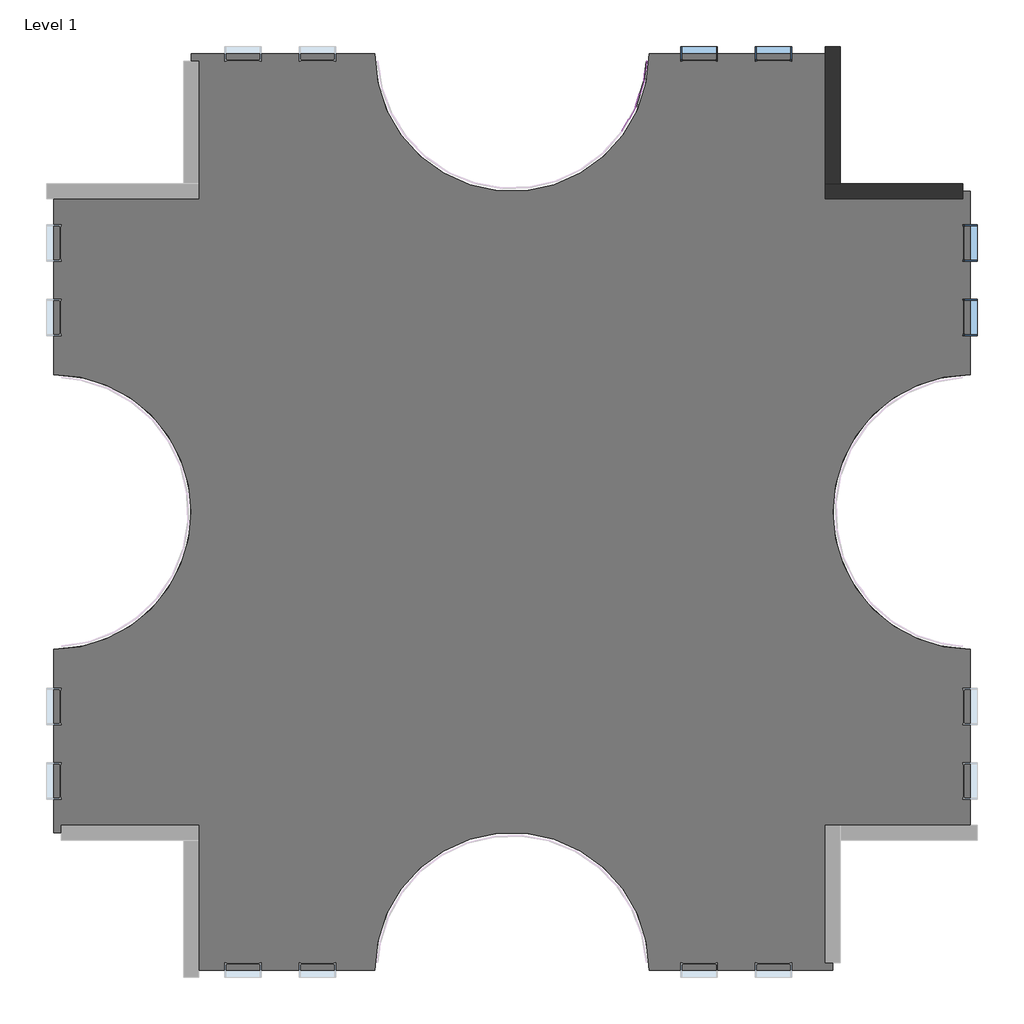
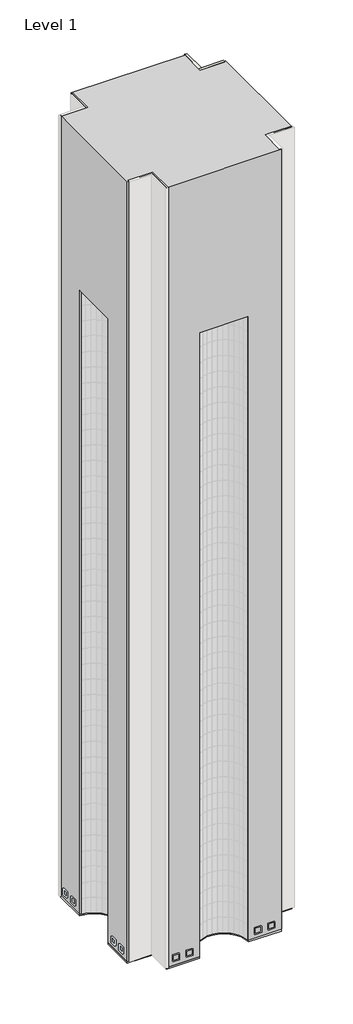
# One storey, part 20 of 20: 87 plates, 4 windows, 2 slabs, 2 walls, 1 proxy.
"""IFC4 building model written with IfcOpenShell, lengths in millimetres."""

from ifc_helpers import new_model, si_unit, point, frame, frame_2d, origin, place, context, project, spatial, polyline, circle_curve, trimmed, segment, composite_curve, outline, extrude, faceted_brep, transform, mapped, element, save
from ifc_brep_helpers import plane_surface, revolved_surface, advanced_brep
from components import system_panel_glazed_d77d1ebf, system_panel_glazed_769dbdec, window_d0035ecf, window_d434eb62

model = new_model("IFC4")

# Units and contexts
model_context = context("Model", 3, world=origin())
ifc_project = project(units=[si_unit("LENGTHUNIT", "METRE", prefix="MILLI")], contexts=[model_context])

# Site, building, storey
site = spatial("IfcSite", under=ifc_project)
building = spatial("IfcBuilding", under=site)
storey = spatial("IfcBuildingStorey", under=building, Name="Level 1", Elevation=0.0)

# Proxy
placement = place(None, origin())
element("IfcBuildingElementProxy", 1, Name="Mass 1 : Mass 1", ObjectType="Mass 1 : Mass 1", at=placement, inside=storey, context=model_context, shape_type="AdvancedBrep", body=[
    advanced_brep(
    [(-7150.3629456, 4479.6634547, 152400.0), (-11722.3629456, 4479.6634547, 152400.0), (-11722.3629456, -16856.3365453, 152400.0), (-7150.3629456, -16856.3365453, 152400.0), (-7150.3629456, -21428.3365453, 152400.0), (14185.6370544, -21428.3365453, 152400.0), (14185.6370544, -16856.3365453, 152400.0), (18757.6370544, -16856.3365453, 152400.0), (18757.6370544, 4479.6634547, 152400.0), (14185.6370544, 4479.6634547, 152400.0), (14185.6370544, 9051.6634547, 152400.0), (-7150.3629456, 9051.6634547, 152400.0), (-7150.3629456, 4479.6634547, 0.0), (-7150.3629456, 9051.6634547, 0.0), (-1054.3629456, 9051.6634547, 0.0), (8089.6370544, 9051.6634547, 0.0), (14185.6370544, 9051.6634547, 0.0), (14185.6370544, 4479.6634547, 0.0), (18757.6370544, 4479.6634547, 0.0), (18757.6370544, -1616.3365453, 0.0), (18757.6370544, -10760.3365453, 0.0), (18757.6370544, -16856.3365453, 0.0), (14185.6370544, -16856.3365453, 0.0), (14185.6370544, -21428.3365453, 0.0), (8089.6370544, -21428.3365453, 0.0), (-1054.3629456, -21428.3365453, 0.0), (-7150.3629456, -21428.3365453, 0.0), (-7150.3629456, -16856.3365453, 0.0), (-11722.3629456, -16856.3365453, 0.0), (-11722.3629456, -10760.3365453, 0.0), (-11722.3629456, -1616.3365453, 0.0), (-11722.3629456, 4479.6634547, 0.0), (-11722.3629456, -1616.3365453, 121920.0), (-11722.3629456, -10760.3365453, 121920.0), (-1054.3629456, -21428.3365453, 121920.0), (8089.6370544, -21428.3365453, 121920.0), (18757.6370544, -10760.3365453, 121920.0), (18757.6370544, -1616.3365453, 121920.0), (8089.6370544, 9051.6634547, 121920.0), (-1054.3629456, 9051.6634547, 121920.0)],
    [
        (0, 1),
        (1, 2),
        (2, 3),
        (3, 4),
        (4, 5),
        (5, 6),
        (6, 7),
        (7, 8),
        (8, 9),
        (9, 10),
        (10, 11),
        (11, 0),
        (12, 13),
        (13, 14),
        (14, 15, circle_curve(frame((3517.6370544, 9051.6634547, 0.0), z_axis=(0.0, 0.0, 1.0), x_axis=(0.0, 1.0, 0.0)), 4572.0)),
        (15, 16),
        (16, 17),
        (17, 18),
        (18, 19),
        (19, 20, circle_curve(frame((18757.6370544, -6188.3365453, 0.0), z_axis=(0.0, 0.0, 1.0), x_axis=(1.0, 0.0, 0.0)), 4572.0)),
        (20, 21),
        (21, 22),
        (22, 23),
        (23, 24),
        (24, 25, circle_curve(frame((3517.6370544, -21428.3365453, 0.0), z_axis=(0.0, 0.0, 1.0), x_axis=(0.0, -1.0, 0.0)), 4572.0)),
        (25, 26),
        (26, 27),
        (27, 28),
        (28, 29),
        (29, 30, circle_curve(frame((-11722.3629456, -6188.3365453, 0.0), z_axis=(0.0, 0.0, 1.0), x_axis=(-1.0, 0.0, 0.0)), 4572.0)),
        (30, 31),
        (31, 12),
        (0, 12),
        (31, 1),
        (30, 32),
        (32, 33),
        (33, 29),
        (28, 2),
        (27, 3),
        (26, 4),
        (25, 34),
        (34, 35),
        (35, 24),
        (23, 5),
        (22, 6),
        (21, 7),
        (20, 36),
        (36, 37),
        (37, 19),
        (18, 8),
        (17, 9),
        (16, 10),
        (15, 38),
        (38, 39),
        (39, 14),
        (13, 11),
        (36, 37, circle_curve(frame((18757.6370544, -6188.3365453, 121920.0), z_axis=(0.0, 0.0, -1.0), x_axis=(1.0, 0.0, 0.0)), 4572.0)),
        (34, 35, circle_curve(frame((3517.6370544, -21428.3365453, 121920.0), z_axis=(0.0, 0.0, -1.0), x_axis=(0.0, -1.0, 0.0)), 4572.0)),
        (38, 39, circle_curve(frame((3517.6370544, 9051.6634547, 121920.0), z_axis=(0.0, 0.0, -1.0), x_axis=(0.0, 1.0, 0.0)), 4572.0)),
        (32, 33, circle_curve(frame((-11722.3629456, -6188.3365453, 121920.0), z_axis=(0.0, 0.0, -1.0), x_axis=(-1.0, 0.0, 0.0)), 4572.0)),
    ],
    [
        plane_surface(frame((-11722.3629456, 4479.6634547, 152400.0), z_axis=(0.0, 0.0, 1.0), x_axis=(-1.0, 0.0, 0.0))),
        plane_surface(frame((-11722.3629456, 4479.6634547, 0.0), z_axis=(0.0, 0.0, -1.0), x_axis=(1.0, 0.0, 0.0))),
        plane_surface(frame((-7150.3629456, 4479.6634547, 152400.0), z_axis=(0.0, 1.0, 0.0), x_axis=(0.0, 0.0, -1.0))),
        plane_surface(frame((-11722.3629456, 4479.6634547, 152400.0), z_axis=(-1.0, 0.0, 0.0), x_axis=(0.0, 0.0, -1.0))),
        plane_surface(frame((-11722.3629456, -16856.3365453, 152400.0), z_axis=(0.0, -1.0, 0.0), x_axis=(0.0, 0.0, -1.0))),
        plane_surface(frame((-7150.3629456, -16856.3365453, 152400.0), z_axis=(-1.0, 0.0, 0.0), x_axis=(0.0, 0.0, -1.0))),
        plane_surface(frame((-7150.3629456, -21428.3365453, 152400.0), z_axis=(0.0, -1.0, 0.0), x_axis=(0.0, 0.0, -1.0))),
        plane_surface(frame((14185.6370544, -21428.3365453, 152400.0), z_axis=(1.0, 0.0, 0.0), x_axis=(0.0, 0.0, -1.0))),
        plane_surface(frame((14185.6370544, -16856.3365453, 152400.0), z_axis=(0.0, -1.0, 0.0), x_axis=(0.0, 0.0, -1.0))),
        plane_surface(frame((18757.6370544, -16856.3365453, 152400.0), z_axis=(1.0, 0.0, 0.0), x_axis=(0.0, 0.0, -1.0))),
        plane_surface(frame((18757.6370544, 4479.6634547, 152400.0), z_axis=(0.0, 1.0, 0.0), x_axis=(0.0, 0.0, -1.0))),
        plane_surface(frame((14185.6370544, 4479.6634547, 152400.0), z_axis=(1.0, 0.0, 0.0), x_axis=(0.0, 0.0, -1.0))),
        plane_surface(frame((14185.6370544, 9051.6634547, 152400.0), z_axis=(0.0, 1.0, 0.0), x_axis=(0.0, 0.0, -1.0))),
        plane_surface(frame((-7150.3629456, 9051.6634547, 152400.0), z_axis=(-1.0, 0.0, 0.0), x_axis=(0.0, 0.0, -1.0))),
        plane_surface(frame((18757.6370544, -10760.3365453, 121920.0), z_axis=(0.0, 0.0, -1.0), x_axis=(0.0, 1.0, 0.0))),
        revolved_surface(polyline([(23329.6370544, -6188.3365453, 121920.0), (23329.6370544, -6188.3365453, 0.0)]), (18757.6370544, -6188.3365453, 0.0), (0.0, 0.0, 1.0)),
        revolved_surface(polyline([(3517.6370544, -26000.3365453, 121920.0), (3517.6370544, -26000.3365453, 0.0)]), (3517.6370544, -21428.3365453, 0.0), (0.0, 0.0, 1.0)),
        revolved_surface(polyline([(3517.6370544, 13623.6634547, 121920.0), (3517.6370544, 13623.6634547, 0.0)]), (3517.6370544, 9051.6634547, 0.0), (0.0, 0.0, 1.0)),
        revolved_surface(polyline([(-16294.3629456, -6188.3365453, 121920.0), (-16294.3629456, -6188.3365453, 0.0)]), (-11722.3629456, -6188.3365453, 0.0), (0.0, 0.0, 1.0)),
    ],
    [
        (0, [[1, 2, 3, 4, 5, 6, 7, 8, 9, 10, 11, 12]]),
        (1, [[13, 14, 15, 16, 17, 18, 19, 20, 21, 22, 23, 24, 25, 26, 27, 28, 29, 30, 31, 32]]),
        (2, [[-1, 33, -32, 34]]),
        (3, [[-2, -34, -31, 35, 36, 37, -29, 38]]),
        (4, [[-3, -38, -28, 39]]),
        (5, [[-4, -39, -27, 40]]),
        (6, [[-5, -40, -26, 41, 42, 43, -24, 44]]),
        (7, [[-6, -44, -23, 45]]),
        (8, [[-7, -45, -22, 46]]),
        (9, [[-8, -46, -21, 47, 48, 49, -19, 50]]),
        (10, [[-9, -50, -18, 51]]),
        (11, [[-10, -51, -17, 52]]),
        (12, [[-11, -52, -16, 53, 54, 55, -14, 56]]),
        (13, [[-12, -56, -13, -33]]),
        (14, [[57, -48]]),
        (14, [[58, -42]]),
        (14, [[59, -54]]),
        (14, [[60, -36]]),
        (15, [[-57, -47, -20, -49]]),
        (16, [[-58, -41, -25, -43]]),
        (17, [[-59, -53, -15, -55]]),
        (18, [[-60, -35, -30, -37]]),
    ],
),
])

# Plates
system_panel_glazed_shape = system_panel_glazed_d77d1ebf(model_context)
element("IfcPlate", 2, ObjectType="System Panel : Glazed", at=placement, inside=storey, context=model_context, shape_type="MappedRepresentation", body=[
    mapped(system_panel_glazed_shape, transform((7737.9054503, 7722.5420694, 0.0), x_axis=(0.30039246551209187, 0.953815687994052, 0.0), y_axis=(-0.953815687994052, 0.30039246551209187, 0.0), z_axis=(0.0, 0.0, 1.0))),
])
element("IfcPlate", 3, ObjectType="System Panel : Glazed", at=placement, inside=storey, context=model_context, shape_type="MappedRepresentation", body=[
    mapped(system_panel_glazed_shape, transform((7737.9054503, 7722.5420694, 3048.0), x_axis=(0.30039246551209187, 0.953815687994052, 0.0), y_axis=(-0.953815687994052, 0.30039246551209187, 0.0), z_axis=(0.0, 0.0, 1.0))),
])
element("IfcPlate", 4, ObjectType="System Panel : Glazed", at=placement, inside=storey, context=model_context, shape_type="MappedRepresentation", body=[
    mapped(system_panel_glazed_shape, transform((7737.9054503, 7722.5420694, 6096.0), x_axis=(0.30039246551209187, 0.953815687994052, 0.0), y_axis=(-0.953815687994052, 0.30039246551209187, 0.0), z_axis=(0.0, 0.0, 1.0))),
])
element("IfcPlate", 5, ObjectType="System Panel : Glazed", at=placement, inside=storey, context=model_context, shape_type="MappedRepresentation", body=[
    mapped(system_panel_glazed_shape, transform((7737.9054503, 7722.5420694, 9144.0), x_axis=(0.30039246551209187, 0.953815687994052, 0.0), y_axis=(-0.953815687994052, 0.30039246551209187, 0.0), z_axis=(0.0, 0.0, 1.0))),
])
element("IfcPlate", 6, ObjectType="System Panel : Glazed", at=placement, inside=storey, context=model_context, shape_type="MappedRepresentation", body=[
    mapped(system_panel_glazed_shape, transform((7737.9054503, 7722.5420694, 12192.0), x_axis=(0.30039246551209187, 0.953815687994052, 0.0), y_axis=(-0.953815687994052, 0.30039246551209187, 0.0), z_axis=(0.0, 0.0, 1.0))),
])
element("IfcPlate", 7, ObjectType="System Panel : Glazed", at=placement, inside=storey, context=model_context, shape_type="MappedRepresentation", body=[
    mapped(system_panel_glazed_shape, transform((7737.9054503, 7722.5420694, 15240.0), x_axis=(0.30039246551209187, 0.953815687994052, 0.0), y_axis=(-0.953815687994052, 0.30039246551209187, 0.0), z_axis=(0.0, 0.0, 1.0))),
])
element("IfcPlate", 8, ObjectType="System Panel : Glazed", at=placement, inside=storey, context=model_context, shape_type="MappedRepresentation", body=[
    mapped(system_panel_glazed_shape, transform((7737.9054503, 7722.5420694, 18288.0), x_axis=(0.3003924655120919, 0.953815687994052, 0.0), y_axis=(-0.953815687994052, 0.3003924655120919, 0.0), z_axis=(0.0, 0.0, 1.0))),
])
element("IfcPlate", 9, ObjectType="System Panel : Glazed", at=placement, inside=storey, context=model_context, shape_type="MappedRepresentation", body=[
    mapped(system_panel_glazed_shape, transform((7737.9054503, 7722.5420694, 21336.0), x_axis=(0.30039246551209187, 0.953815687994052, 0.0), y_axis=(-0.953815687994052, 0.30039246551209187, 0.0), z_axis=(0.0, 0.0, 1.0))),
])
element("IfcPlate", 10, ObjectType="System Panel : Glazed", at=placement, inside=storey, context=model_context, shape_type="MappedRepresentation", body=[
    mapped(system_panel_glazed_shape, transform((7737.9054503, 7722.5420694, 24384.0), x_axis=(0.30039246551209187, 0.953815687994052, 0.0), y_axis=(-0.953815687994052, 0.30039246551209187, 0.0), z_axis=(0.0, 0.0, 1.0))),
])
element("IfcPlate", 11, ObjectType="System Panel : Glazed", at=placement, inside=storey, context=model_context, shape_type="MappedRepresentation", body=[
    mapped(system_panel_glazed_shape, transform((7737.9054503, 7722.5420694, 27432.0), x_axis=(0.30039246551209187, 0.953815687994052, 0.0), y_axis=(-0.953815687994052, 0.30039246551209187, 0.0), z_axis=(0.0, 0.0, 1.0))),
])
element("IfcPlate", 12, ObjectType="System Panel : Glazed", at=placement, inside=storey, context=model_context, shape_type="MappedRepresentation", body=[
    mapped(system_panel_glazed_shape, transform((7737.9054503, 7722.5420694, 30480.0), x_axis=(0.30039246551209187, 0.953815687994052, 0.0), y_axis=(-0.953815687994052, 0.30039246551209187, 0.0), z_axis=(0.0, 0.0, 1.0))),
])
element("IfcPlate", 13, ObjectType="System Panel : Glazed", at=placement, inside=storey, context=model_context, shape_type="MappedRepresentation", body=[
    mapped(system_panel_glazed_shape, transform((7737.9054503, 7722.5420694, 33528.0), x_axis=(0.30039246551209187, 0.953815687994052, 0.0), y_axis=(-0.953815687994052, 0.30039246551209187, 0.0), z_axis=(0.0, 0.0, 1.0))),
])
element("IfcPlate", 14, ObjectType="System Panel : Glazed", at=placement, inside=storey, context=model_context, shape_type="MappedRepresentation", body=[
    mapped(system_panel_glazed_shape, transform((7737.9054503, 7722.5420694, 36576.0), x_axis=(0.30039246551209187, 0.953815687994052, 0.0), y_axis=(-0.953815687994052, 0.30039246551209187, 0.0), z_axis=(0.0, 0.0, 1.0))),
])
element("IfcPlate", 15, ObjectType="System Panel : Glazed", at=placement, inside=storey, context=model_context, shape_type="MappedRepresentation", body=[
    mapped(system_panel_glazed_shape, transform((7737.9054503, 7722.5420694, 39624.0), x_axis=(0.30039246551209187, 0.953815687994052, 0.0), y_axis=(-0.953815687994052, 0.30039246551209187, 0.0), z_axis=(0.0, 0.0, 1.0))),
])
element("IfcPlate", 16, ObjectType="System Panel : Glazed", at=placement, inside=storey, context=model_context, shape_type="MappedRepresentation", body=[
    mapped(system_panel_glazed_shape, transform((7737.9054503, 7722.5420694, 42672.0), x_axis=(0.30039246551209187, 0.953815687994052, 0.0), y_axis=(-0.953815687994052, 0.30039246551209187, 0.0), z_axis=(0.0, 0.0, 1.0))),
])
element("IfcPlate", 17, ObjectType="System Panel : Glazed", at=placement, inside=storey, context=model_context, shape_type="MappedRepresentation", body=[
    mapped(system_panel_glazed_shape, transform((7737.9054503, 7722.5420694, 45720.0), x_axis=(0.30039246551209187, 0.953815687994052, 0.0), y_axis=(-0.953815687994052, 0.30039246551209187, 0.0), z_axis=(0.0, 0.0, 1.0))),
])
element("IfcPlate", 18, ObjectType="System Panel : Glazed", at=placement, inside=storey, context=model_context, shape_type="MappedRepresentation", body=[
    mapped(system_panel_glazed_shape, transform((7737.9054503, 7722.5420694, 48768.0), x_axis=(0.30039246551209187, 0.953815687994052, 0.0), y_axis=(-0.953815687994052, 0.30039246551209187, 0.0), z_axis=(0.0, 0.0, 1.0))),
])
element("IfcPlate", 19, ObjectType="System Panel : Glazed", at=placement, inside=storey, context=model_context, shape_type="MappedRepresentation", body=[
    mapped(system_panel_glazed_shape, transform((7737.9054503, 7722.5420694, 51816.0), x_axis=(0.30039246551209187, 0.953815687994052, 0.0), y_axis=(-0.953815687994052, 0.30039246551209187, 0.0), z_axis=(0.0, 0.0, 1.0))),
])
element("IfcPlate", 20, ObjectType="System Panel : Glazed", at=placement, inside=storey, context=model_context, shape_type="MappedRepresentation", body=[
    mapped(system_panel_glazed_shape, transform((7737.9054503, 7722.5420694, 54864.0), x_axis=(0.30039246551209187, 0.953815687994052, 0.0), y_axis=(-0.953815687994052, 0.30039246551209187, 0.0), z_axis=(0.0, 0.0, 1.0))),
])
element("IfcPlate", 21, ObjectType="System Panel : Glazed", at=placement, inside=storey, context=model_context, shape_type="MappedRepresentation", body=[
    mapped(system_panel_glazed_shape, transform((7737.9054503, 7722.5420694, 57912.0), x_axis=(0.30039246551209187, 0.953815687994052, 0.0), y_axis=(-0.953815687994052, 0.30039246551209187, 0.0), z_axis=(0.0, 0.0, 1.0))),
])
element("IfcPlate", 22, ObjectType="System Panel : Glazed", at=placement, inside=storey, context=model_context, shape_type="MappedRepresentation", body=[
    mapped(system_panel_glazed_shape, transform((7737.9054503, 7722.5420694, 60960.0), x_axis=(0.30039246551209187, 0.953815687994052, 0.0), y_axis=(-0.953815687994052, 0.30039246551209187, 0.0), z_axis=(0.0, 0.0, 1.0))),
])
element("IfcPlate", 23, ObjectType="System Panel : Glazed", at=placement, inside=storey, context=model_context, shape_type="MappedRepresentation", body=[
    mapped(system_panel_glazed_shape, transform((7737.9054503, 7722.5420694, 64008.0), x_axis=(0.30039246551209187, 0.953815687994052, 0.0), y_axis=(-0.953815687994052, 0.30039246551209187, 0.0), z_axis=(0.0, 0.0, 1.0))),
])
element("IfcPlate", 24, ObjectType="System Panel : Glazed", at=placement, inside=storey, context=model_context, shape_type="MappedRepresentation", body=[
    mapped(system_panel_glazed_shape, transform((7737.9054503, 7722.5420694, 67056.0), x_axis=(0.30039246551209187, 0.953815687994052, 0.0), y_axis=(-0.953815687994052, 0.30039246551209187, 0.0), z_axis=(0.0, 0.0, 1.0))),
])
element("IfcPlate", 25, ObjectType="System Panel : Glazed", at=placement, inside=storey, context=model_context, shape_type="MappedRepresentation", body=[
    mapped(system_panel_glazed_shape, transform((7737.9054503, 7722.5420694, 70104.0), x_axis=(0.30039246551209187, 0.953815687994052, 0.0), y_axis=(-0.953815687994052, 0.30039246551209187, 0.0), z_axis=(0.0, 0.0, 1.0))),
])
element("IfcPlate", 26, ObjectType="System Panel : Glazed", at=placement, inside=storey, context=model_context, shape_type="MappedRepresentation", body=[
    mapped(system_panel_glazed_shape, transform((7737.9054503, 7722.5420694, 73152.0), x_axis=(0.30039246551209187, 0.953815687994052, 0.0), y_axis=(-0.953815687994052, 0.30039246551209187, 0.0), z_axis=(0.0, 0.0, 1.0))),
])
element("IfcPlate", 27, ObjectType="System Panel : Glazed", at=placement, inside=storey, context=model_context, shape_type="MappedRepresentation", body=[
    mapped(system_panel_glazed_shape, transform((7737.9054503, 7722.5420694, 76200.0), x_axis=(0.30039246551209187, 0.953815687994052, 0.0), y_axis=(-0.953815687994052, 0.30039246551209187, 0.0), z_axis=(0.0, 0.0, 1.0))),
])
element("IfcPlate", 28, ObjectType="System Panel : Glazed", at=placement, inside=storey, context=model_context, shape_type="MappedRepresentation", body=[
    mapped(system_panel_glazed_shape, transform((7737.9054503, 7722.5420694, 79248.0), x_axis=(0.30039246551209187, 0.953815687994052, 0.0), y_axis=(-0.953815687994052, 0.30039246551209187, 0.0), z_axis=(0.0, 0.0, 1.0))),
])
element("IfcPlate", 29, ObjectType="System Panel : Glazed", at=placement, inside=storey, context=model_context, shape_type="MappedRepresentation", body=[
    mapped(system_panel_glazed_shape, transform((7737.9054503, 7722.5420694, 82296.0), x_axis=(0.30039246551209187, 0.953815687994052, 0.0), y_axis=(-0.953815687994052, 0.30039246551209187, 0.0), z_axis=(0.0, 0.0, 1.0))),
])
element("IfcPlate", 30, ObjectType="System Panel : Glazed", at=placement, inside=storey, context=model_context, shape_type="MappedRepresentation", body=[
    mapped(system_panel_glazed_shape, transform((7737.9054503, 7722.5420694, 85344.0), x_axis=(0.30039246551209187, 0.953815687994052, 0.0), y_axis=(-0.953815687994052, 0.30039246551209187, 0.0), z_axis=(0.0, 0.0, 1.0))),
])
element("IfcPlate", 31, ObjectType="System Panel : Glazed", at=placement, inside=storey, context=model_context, shape_type="MappedRepresentation", body=[
    mapped(system_panel_glazed_shape, transform((7737.9054503, 7722.5420694, 88392.0), x_axis=(0.30039246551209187, 0.953815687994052, 0.0), y_axis=(-0.953815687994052, 0.30039246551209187, 0.0), z_axis=(0.0, 0.0, 1.0))),
])
element("IfcPlate", 32, ObjectType="System Panel : Glazed", at=placement, inside=storey, context=model_context, shape_type="MappedRepresentation", body=[
    mapped(system_panel_glazed_shape, transform((7737.9054503, 7722.5420694, 91440.0), x_axis=(0.30039246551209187, 0.953815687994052, 0.0), y_axis=(-0.953815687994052, 0.30039246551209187, 0.0), z_axis=(0.0, 0.0, 1.0))),
])
element("IfcPlate", 33, ObjectType="System Panel : Glazed", at=placement, inside=storey, context=model_context, shape_type="MappedRepresentation", body=[
    mapped(system_panel_glazed_shape, transform((7737.9054503, 7722.5420694, 94488.0), x_axis=(0.30039246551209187, 0.953815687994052, 0.0), y_axis=(-0.953815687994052, 0.30039246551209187, 0.0), z_axis=(0.0, 0.0, 1.0))),
])
element("IfcPlate", 34, ObjectType="System Panel : Glazed", at=placement, inside=storey, context=model_context, shape_type="MappedRepresentation", body=[
    mapped(system_panel_glazed_shape, transform((7737.9054503, 7722.5420694, 97536.0), x_axis=(0.30039246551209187, 0.953815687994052, 0.0), y_axis=(-0.953815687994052, 0.30039246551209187, 0.0), z_axis=(0.0, 0.0, 1.0))),
])
element("IfcPlate", 35, ObjectType="System Panel : Glazed", at=placement, inside=storey, context=model_context, shape_type="MappedRepresentation", body=[
    mapped(system_panel_glazed_shape, transform((7376.9584203, 6887.6700201, 100584.0), x_axis=(0.4890804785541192, 0.8722386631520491, 0.0), y_axis=(-0.8722386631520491, 0.4890804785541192, 0.0), z_axis=(0.0, 0.0, 1.0))),
])
element("IfcPlate", 36, ObjectType="System Panel : Glazed", at=placement, inside=storey, context=model_context, shape_type="MappedRepresentation", body=[
    mapped(system_panel_glazed_shape, transform((7737.9054503, 7722.5420694, 100584.0), x_axis=(0.30039246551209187, 0.953815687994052, 0.0), y_axis=(-0.953815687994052, 0.30039246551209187, 0.0), z_axis=(0.0, 0.0, 1.0))),
])
element("IfcPlate", 37, ObjectType="System Panel : Glazed", at=placement, inside=storey, context=model_context, shape_type="MappedRepresentation", body=[
    mapped(system_panel_glazed_shape, transform((7376.9584203, 6887.6700201, 103632.0), x_axis=(0.4890804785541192, 0.8722386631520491, 0.0), y_axis=(-0.8722386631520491, 0.4890804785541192, 0.0), z_axis=(0.0, 0.0, 1.0))),
])
element("IfcPlate", 38, ObjectType="System Panel : Glazed", at=placement, inside=storey, context=model_context, shape_type="MappedRepresentation", body=[
    mapped(system_panel_glazed_shape, transform((7737.9054503, 7722.5420694, 103632.0), x_axis=(0.30039246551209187, 0.953815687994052, 0.0), y_axis=(-0.953815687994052, 0.30039246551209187, 0.0), z_axis=(0.0, 0.0, 1.0))),
])
element("IfcPlate", 39, ObjectType="System Panel : Glazed", at=placement, inside=storey, context=model_context, shape_type="MappedRepresentation", body=[
    mapped(system_panel_glazed_shape, transform((7376.9584203, 6887.6700201, 106680.0), x_axis=(0.4890804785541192, 0.8722386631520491, 0.0), y_axis=(-0.8722386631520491, 0.4890804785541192, 0.0), z_axis=(0.0, 0.0, 1.0))),
])
element("IfcPlate", 40, ObjectType="System Panel : Glazed", at=placement, inside=storey, context=model_context, shape_type="MappedRepresentation", body=[
    mapped(system_panel_glazed_shape, transform((7737.9054503, 7722.5420694, 106680.0), x_axis=(0.30039246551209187, 0.953815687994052, 0.0), y_axis=(-0.953815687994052, 0.30039246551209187, 0.0), z_axis=(0.0, 0.0, 1.0))),
])
element("IfcPlate", 41, ObjectType="System Panel : Glazed", at=placement, inside=storey, context=model_context, shape_type="MappedRepresentation", body=[
    mapped(system_panel_glazed_shape, transform((7376.9584203, 6887.6700201, 109728.0), x_axis=(0.4890804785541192, 0.8722386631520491, 0.0), y_axis=(-0.8722386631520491, 0.4890804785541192, 0.0), z_axis=(0.0, 0.0, 1.0))),
])
element("IfcPlate", 42, ObjectType="System Panel : Glazed", at=placement, inside=storey, context=model_context, shape_type="MappedRepresentation", body=[
    mapped(system_panel_glazed_shape, transform((7737.9054503, 7722.5420694, 109728.0), x_axis=(0.30039246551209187, 0.953815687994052, 0.0), y_axis=(-0.953815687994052, 0.30039246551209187, 0.0), z_axis=(0.0, 0.0, 1.0))),
])
element("IfcPlate", 43, ObjectType="System Panel : Glazed", at=placement, inside=storey, context=model_context, shape_type="MappedRepresentation", body=[
    mapped(system_panel_glazed_shape, transform((7376.9584203, 6887.6700201, 112776.0), x_axis=(0.4890804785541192, 0.8722386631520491, 0.0), y_axis=(-0.8722386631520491, 0.4890804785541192, 0.0), z_axis=(0.0, 0.0, 1.0))),
])
element("IfcPlate", 44, ObjectType="System Panel : Glazed", at=placement, inside=storey, context=model_context, shape_type="MappedRepresentation", body=[
    mapped(system_panel_glazed_shape, transform((7737.9054503, 7722.5420694, 112776.0), x_axis=(0.30039246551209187, 0.953815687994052, 0.0), y_axis=(-0.953815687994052, 0.30039246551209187, 0.0), z_axis=(0.0, 0.0, 1.0))),
])
element("IfcPlate", 45, ObjectType="System Panel : Glazed", at=placement, inside=storey, context=model_context, shape_type="MappedRepresentation", body=[
    mapped(system_panel_glazed_shape, transform((7376.9584203, 6887.6700201, 115824.0), x_axis=(0.4890804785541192, 0.8722386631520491, 0.0), y_axis=(-0.8722386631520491, 0.4890804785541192, 0.0), z_axis=(0.0, 0.0, 1.0))),
])
element("IfcPlate", 46, ObjectType="System Panel : Glazed", at=placement, inside=storey, context=model_context, shape_type="MappedRepresentation", body=[
    mapped(system_panel_glazed_shape, transform((7737.9054503, 7722.5420694, 115824.0), x_axis=(0.30039246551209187, 0.953815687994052, 0.0), y_axis=(-0.953815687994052, 0.30039246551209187, 0.0), z_axis=(0.0, 0.0, 1.0))),
])
element("IfcPlate", 47, ObjectType="System Panel : Glazed", at=placement, inside=storey, context=model_context, shape_type="MappedRepresentation", body=[
    mapped(system_panel_glazed_shape, transform((7376.9584203, 6887.6700201, 118872.0), x_axis=(0.4890804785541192, 0.8722386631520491, 0.0), y_axis=(-0.8722386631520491, 0.4890804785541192, 0.0), z_axis=(0.0, 0.0, 1.0))),
])
element("IfcPlate", 48, ObjectType="System Panel : Glazed", at=placement, inside=storey, context=model_context, shape_type="MappedRepresentation", body=[
    mapped(system_panel_glazed_shape, transform((7737.9054503, 7722.5420694, 118872.0), x_axis=(0.30039246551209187, 0.953815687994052, 0.0), y_axis=(-0.953815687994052, 0.30039246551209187, 0.0), z_axis=(0.0, 0.0, 1.0))),
])
system_panel_glazed_2_shape = system_panel_glazed_769dbdec(model_context)
element("IfcPlate", 49, ObjectType="System Panel : Glazed", at=placement, inside=storey, context=model_context, shape_type="MappedRepresentation", body=[
    mapped(system_panel_glazed_2_shape, transform((7916.9897563, 8479.7325283, 0.0), x_axis=(0.12891857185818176, 0.9916551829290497, 0.0), y_axis=(-0.9916551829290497, 0.12891857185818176, 0.0), z_axis=(0.0, 0.0, 1.0))),
])
element("IfcPlate", 50, ObjectType="System Panel : Glazed", at=placement, inside=storey, context=model_context, shape_type="MappedRepresentation", body=[
    mapped(system_panel_glazed_2_shape, transform((7916.9897563, 8479.7325283, 3048.0), x_axis=(0.12891857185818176, 0.9916551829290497, 0.0), y_axis=(-0.9916551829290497, 0.12891857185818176, 0.0), z_axis=(0.0, 0.0, 1.0))),
])
element("IfcPlate", 51, ObjectType="System Panel : Glazed", at=placement, inside=storey, context=model_context, shape_type="MappedRepresentation", body=[
    mapped(system_panel_glazed_2_shape, transform((7916.9897563, 8479.7325283, 6096.0), x_axis=(0.12891857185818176, 0.9916551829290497, 0.0), y_axis=(-0.9916551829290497, 0.12891857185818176, 0.0), z_axis=(0.0, 0.0, 1.0))),
])
element("IfcPlate", 52, ObjectType="System Panel : Glazed", at=placement, inside=storey, context=model_context, shape_type="MappedRepresentation", body=[
    mapped(system_panel_glazed_2_shape, transform((7916.9897563, 8479.7325283, 9144.0), x_axis=(0.12891857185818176, 0.9916551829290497, 0.0), y_axis=(-0.9916551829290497, 0.12891857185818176, 0.0), z_axis=(0.0, 0.0, 1.0))),
])
element("IfcPlate", 53, ObjectType="System Panel : Glazed", at=placement, inside=storey, context=model_context, shape_type="MappedRepresentation", body=[
    mapped(system_panel_glazed_2_shape, transform((7916.9897563, 8479.7325283, 12192.0), x_axis=(0.12891857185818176, 0.9916551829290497, 0.0), y_axis=(-0.9916551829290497, 0.12891857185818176, 0.0), z_axis=(0.0, 0.0, 1.0))),
])
element("IfcPlate", 54, ObjectType="System Panel : Glazed", at=placement, inside=storey, context=model_context, shape_type="MappedRepresentation", body=[
    mapped(system_panel_glazed_2_shape, transform((7916.9897563, 8479.7325283, 15240.0), x_axis=(0.12891857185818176, 0.9916551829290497, 0.0), y_axis=(-0.9916551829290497, 0.12891857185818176, 0.0), z_axis=(0.0, 0.0, 1.0))),
])
element("IfcPlate", 55, ObjectType="System Panel : Glazed", at=placement, inside=storey, context=model_context, shape_type="MappedRepresentation", body=[
    mapped(system_panel_glazed_2_shape, transform((7916.9897563, 8479.7325283, 18288.0), x_axis=(0.12891857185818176, 0.9916551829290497, 0.0), y_axis=(-0.9916551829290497, 0.12891857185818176, 0.0), z_axis=(0.0, 0.0, 1.0))),
])
element("IfcPlate", 56, ObjectType="System Panel : Glazed", at=placement, inside=storey, context=model_context, shape_type="MappedRepresentation", body=[
    mapped(system_panel_glazed_2_shape, transform((7916.9897563, 8479.7325283, 21336.0), x_axis=(0.12891857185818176, 0.9916551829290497, 0.0), y_axis=(-0.9916551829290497, 0.12891857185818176, 0.0), z_axis=(0.0, 0.0, 1.0))),
])
element("IfcPlate", 57, ObjectType="System Panel : Glazed", at=placement, inside=storey, context=model_context, shape_type="MappedRepresentation", body=[
    mapped(system_panel_glazed_2_shape, transform((7916.9897563, 8479.7325283, 24384.0), x_axis=(0.12891857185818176, 0.9916551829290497, 0.0), y_axis=(-0.9916551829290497, 0.12891857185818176, 0.0), z_axis=(0.0, 0.0, 1.0))),
])
element("IfcPlate", 58, ObjectType="System Panel : Glazed", at=placement, inside=storey, context=model_context, shape_type="MappedRepresentation", body=[
    mapped(system_panel_glazed_2_shape, transform((7916.9897563, 8479.7325283, 27432.0), x_axis=(0.12891857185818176, 0.9916551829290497, 0.0), y_axis=(-0.9916551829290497, 0.12891857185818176, 0.0), z_axis=(0.0, 0.0, 1.0))),
])
element("IfcPlate", 59, ObjectType="System Panel : Glazed", at=placement, inside=storey, context=model_context, shape_type="MappedRepresentation", body=[
    mapped(system_panel_glazed_2_shape, transform((7916.9897563, 8479.7325283, 30480.0), x_axis=(0.12891857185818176, 0.9916551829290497, 0.0), y_axis=(-0.9916551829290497, 0.12891857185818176, 0.0), z_axis=(0.0, 0.0, 1.0))),
])
element("IfcPlate", 60, ObjectType="System Panel : Glazed", at=placement, inside=storey, context=model_context, shape_type="MappedRepresentation", body=[
    mapped(system_panel_glazed_2_shape, transform((7916.9897563, 8479.7325283, 33528.0), x_axis=(0.12891857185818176, 0.9916551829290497, 0.0), y_axis=(-0.9916551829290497, 0.12891857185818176, 0.0), z_axis=(0.0, 0.0, 1.0))),
])
element("IfcPlate", 61, ObjectType="System Panel : Glazed", at=placement, inside=storey, context=model_context, shape_type="MappedRepresentation", body=[
    mapped(system_panel_glazed_2_shape, transform((7916.9897563, 8479.7325283, 36576.0), x_axis=(0.12891857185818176, 0.9916551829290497, 0.0), y_axis=(-0.9916551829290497, 0.12891857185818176, 0.0), z_axis=(0.0, 0.0, 1.0))),
])
element("IfcPlate", 62, ObjectType="System Panel : Glazed", at=placement, inside=storey, context=model_context, shape_type="MappedRepresentation", body=[
    mapped(system_panel_glazed_2_shape, transform((7916.9897563, 8479.7325283, 39624.0), x_axis=(0.12891857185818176, 0.9916551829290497, 0.0), y_axis=(-0.9916551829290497, 0.12891857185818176, 0.0), z_axis=(0.0, 0.0, 1.0))),
])
element("IfcPlate", 63, ObjectType="System Panel : Glazed", at=placement, inside=storey, context=model_context, shape_type="MappedRepresentation", body=[
    mapped(system_panel_glazed_2_shape, transform((7916.9897563, 8479.7325283, 42672.0), x_axis=(0.12891857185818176, 0.9916551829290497, 0.0), y_axis=(-0.9916551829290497, 0.12891857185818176, 0.0), z_axis=(0.0, 0.0, 1.0))),
])
element("IfcPlate", 64, ObjectType="System Panel : Glazed", at=placement, inside=storey, context=model_context, shape_type="MappedRepresentation", body=[
    mapped(system_panel_glazed_2_shape, transform((7916.9897563, 8479.7325283, 45720.0), x_axis=(0.12891857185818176, 0.9916551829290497, 0.0), y_axis=(-0.9916551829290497, 0.12891857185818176, 0.0), z_axis=(0.0, 0.0, 1.0))),
])
element("IfcPlate", 65, ObjectType="System Panel : Glazed", at=placement, inside=storey, context=model_context, shape_type="MappedRepresentation", body=[
    mapped(system_panel_glazed_2_shape, transform((7916.9897563, 8479.7325283, 48768.0), x_axis=(0.12891857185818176, 0.9916551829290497, 0.0), y_axis=(-0.9916551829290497, 0.12891857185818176, 0.0), z_axis=(0.0, 0.0, 1.0))),
])
element("IfcPlate", 66, ObjectType="System Panel : Glazed", at=placement, inside=storey, context=model_context, shape_type="MappedRepresentation", body=[
    mapped(system_panel_glazed_2_shape, transform((7916.9897563, 8479.7325283, 51816.0), x_axis=(0.12891857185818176, 0.9916551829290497, 0.0), y_axis=(-0.9916551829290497, 0.12891857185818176, 0.0), z_axis=(0.0, 0.0, 1.0))),
])
element("IfcPlate", 67, ObjectType="System Panel : Glazed", at=placement, inside=storey, context=model_context, shape_type="MappedRepresentation", body=[
    mapped(system_panel_glazed_2_shape, transform((7916.9897563, 8479.7325283, 54864.0), x_axis=(0.12891857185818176, 0.9916551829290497, 0.0), y_axis=(-0.9916551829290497, 0.12891857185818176, 0.0), z_axis=(0.0, 0.0, 1.0))),
])
element("IfcPlate", 68, ObjectType="System Panel : Glazed", at=placement, inside=storey, context=model_context, shape_type="MappedRepresentation", body=[
    mapped(system_panel_glazed_2_shape, transform((7916.9897563, 8479.7325283, 57912.0), x_axis=(0.12891857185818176, 0.9916551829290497, 0.0), y_axis=(-0.9916551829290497, 0.12891857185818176, 0.0), z_axis=(0.0, 0.0, 1.0))),
])
element("IfcPlate", 69, ObjectType="System Panel : Glazed", at=placement, inside=storey, context=model_context, shape_type="MappedRepresentation", body=[
    mapped(system_panel_glazed_2_shape, transform((7916.9897563, 8479.7325283, 60960.0), x_axis=(0.12891857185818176, 0.9916551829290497, 0.0), y_axis=(-0.9916551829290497, 0.12891857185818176, 0.0), z_axis=(0.0, 0.0, 1.0))),
])
element("IfcPlate", 70, ObjectType="System Panel : Glazed", at=placement, inside=storey, context=model_context, shape_type="MappedRepresentation", body=[
    mapped(system_panel_glazed_2_shape, transform((7916.9897563, 8479.7325283, 64008.0), x_axis=(0.12891857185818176, 0.9916551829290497, 0.0), y_axis=(-0.9916551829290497, 0.12891857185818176, 0.0), z_axis=(0.0, 0.0, 1.0))),
])
element("IfcPlate", 71, ObjectType="System Panel : Glazed", at=placement, inside=storey, context=model_context, shape_type="MappedRepresentation", body=[
    mapped(system_panel_glazed_2_shape, transform((7916.9897563, 8479.7325283, 67056.0), x_axis=(0.12891857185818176, 0.9916551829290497, 0.0), y_axis=(-0.9916551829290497, 0.12891857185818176, 0.0), z_axis=(0.0, 0.0, 1.0))),
])
element("IfcPlate", 72, ObjectType="System Panel : Glazed", at=placement, inside=storey, context=model_context, shape_type="MappedRepresentation", body=[
    mapped(system_panel_glazed_2_shape, transform((7916.9897563, 8479.7325283, 70104.0), x_axis=(0.12891857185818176, 0.9916551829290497, 0.0), y_axis=(-0.9916551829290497, 0.12891857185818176, 0.0), z_axis=(0.0, 0.0, 1.0))),
])
element("IfcPlate", 73, ObjectType="System Panel : Glazed", at=placement, inside=storey, context=model_context, shape_type="MappedRepresentation", body=[
    mapped(system_panel_glazed_2_shape, transform((7916.9897563, 8479.7325283, 73152.0), x_axis=(0.12891857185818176, 0.9916551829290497, 0.0), y_axis=(-0.9916551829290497, 0.12891857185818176, 0.0), z_axis=(0.0, 0.0, 1.0))),
])
element("IfcPlate", 74, ObjectType="System Panel : Glazed", at=placement, inside=storey, context=model_context, shape_type="MappedRepresentation", body=[
    mapped(system_panel_glazed_2_shape, transform((7916.9897563, 8479.7325283, 76200.0), x_axis=(0.12891857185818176, 0.9916551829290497, 0.0), y_axis=(-0.9916551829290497, 0.12891857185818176, 0.0), z_axis=(0.0, 0.0, 1.0))),
])
element("IfcPlate", 75, ObjectType="System Panel : Glazed", at=placement, inside=storey, context=model_context, shape_type="MappedRepresentation", body=[
    mapped(system_panel_glazed_2_shape, transform((7916.9897563, 8479.7325283, 79248.0), x_axis=(0.12891857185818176, 0.9916551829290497, 0.0), y_axis=(-0.9916551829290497, 0.12891857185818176, 0.0), z_axis=(0.0, 0.0, 1.0))),
])
element("IfcPlate", 76, ObjectType="System Panel : Glazed", at=placement, inside=storey, context=model_context, shape_type="MappedRepresentation", body=[
    mapped(system_panel_glazed_2_shape, transform((7916.9897563, 8479.7325283, 82296.0), x_axis=(0.12891857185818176, 0.9916551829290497, 0.0), y_axis=(-0.9916551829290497, 0.12891857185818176, 0.0), z_axis=(0.0, 0.0, 1.0))),
])
element("IfcPlate", 77, ObjectType="System Panel : Glazed", at=placement, inside=storey, context=model_context, shape_type="MappedRepresentation", body=[
    mapped(system_panel_glazed_2_shape, transform((7916.9897563, 8479.7325283, 85344.0), x_axis=(0.12891857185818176, 0.9916551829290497, 0.0), y_axis=(-0.9916551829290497, 0.12891857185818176, 0.0), z_axis=(0.0, 0.0, 1.0))),
])
element("IfcPlate", 78, ObjectType="System Panel : Glazed", at=placement, inside=storey, context=model_context, shape_type="MappedRepresentation", body=[
    mapped(system_panel_glazed_2_shape, transform((7916.9897563, 8479.7325283, 88392.0), x_axis=(0.12891857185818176, 0.9916551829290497, 0.0), y_axis=(-0.9916551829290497, 0.12891857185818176, 0.0), z_axis=(0.0, 0.0, 1.0))),
])
element("IfcPlate", 79, ObjectType="System Panel : Glazed", at=placement, inside=storey, context=model_context, shape_type="MappedRepresentation", body=[
    mapped(system_panel_glazed_2_shape, transform((7916.9897563, 8479.7325283, 91440.0), x_axis=(0.12891857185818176, 0.9916551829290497, 0.0), y_axis=(-0.9916551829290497, 0.12891857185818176, 0.0), z_axis=(0.0, 0.0, 1.0))),
])
element("IfcPlate", 80, ObjectType="System Panel : Glazed", at=placement, inside=storey, context=model_context, shape_type="MappedRepresentation", body=[
    mapped(system_panel_glazed_2_shape, transform((7916.9897563, 8479.7325283, 94488.0), x_axis=(0.12891857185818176, 0.9916551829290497, 0.0), y_axis=(-0.9916551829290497, 0.12891857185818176, 0.0), z_axis=(0.0, 0.0, 1.0))),
])
element("IfcPlate", 81, ObjectType="System Panel : Glazed", at=placement, inside=storey, context=model_context, shape_type="MappedRepresentation", body=[
    mapped(system_panel_glazed_2_shape, transform((7916.9897563, 8479.7325283, 97536.0), x_axis=(0.12891857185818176, 0.9916551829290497, 0.0), y_axis=(-0.9916551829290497, 0.12891857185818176, 0.0), z_axis=(0.0, 0.0, 1.0))),
])
element("IfcPlate", 82, ObjectType="System Panel : Glazed", at=placement, inside=storey, context=model_context, shape_type="MappedRepresentation", body=[
    mapped(system_panel_glazed_2_shape, transform((7916.9897563, 8479.7325283, 100584.0), x_axis=(0.12891857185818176, 0.9916551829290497, 0.0), y_axis=(-0.9916551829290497, 0.12891857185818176, 0.0), z_axis=(0.0, 0.0, 1.0))),
])
element("IfcPlate", 83, ObjectType="System Panel : Glazed", at=placement, inside=storey, context=model_context, shape_type="MappedRepresentation", body=[
    mapped(system_panel_glazed_2_shape, transform((7916.9897563, 8479.7325283, 103632.0), x_axis=(0.12891857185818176, 0.9916551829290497, 0.0), y_axis=(-0.9916551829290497, 0.12891857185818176, 0.0), z_axis=(0.0, 0.0, 1.0))),
])
element("IfcPlate", 84, ObjectType="System Panel : Glazed", at=placement, inside=storey, context=model_context, shape_type="MappedRepresentation", body=[
    mapped(system_panel_glazed_2_shape, transform((7916.9897563, 8479.7325283, 106680.0), x_axis=(0.12891857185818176, 0.9916551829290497, 0.0), y_axis=(-0.9916551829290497, 0.12891857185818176, 0.0), z_axis=(0.0, 0.0, 1.0))),
])
element("IfcPlate", 85, ObjectType="System Panel : Glazed", at=placement, inside=storey, context=model_context, shape_type="MappedRepresentation", body=[
    mapped(system_panel_glazed_2_shape, transform((7916.9897563, 8479.7325283, 109728.0), x_axis=(0.12891857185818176, 0.9916551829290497, 0.0), y_axis=(-0.9916551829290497, 0.12891857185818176, 0.0), z_axis=(0.0, 0.0, 1.0))),
])
element("IfcPlate", 86, ObjectType="System Panel : Glazed", at=placement, inside=storey, context=model_context, shape_type="MappedRepresentation", body=[
    mapped(system_panel_glazed_2_shape, transform((7916.9897563, 8479.7325283, 112776.0), x_axis=(0.12891857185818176, 0.9916551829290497, 0.0), y_axis=(-0.9916551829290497, 0.12891857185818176, 0.0), z_axis=(0.0, 0.0, 1.0))),
])
element("IfcPlate", 87, ObjectType="System Panel : Glazed", at=placement, inside=storey, context=model_context, shape_type="MappedRepresentation", body=[
    mapped(system_panel_glazed_2_shape, transform((7916.9897563, 8479.7325283, 115824.0), x_axis=(0.12891857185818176, 0.9916551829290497, 0.0), y_axis=(-0.9916551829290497, 0.12891857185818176, 0.0), z_axis=(0.0, 0.0, 1.0))),
])
element("IfcPlate", 88, ObjectType="System Panel : Glazed", at=placement, inside=storey, context=model_context, shape_type="MappedRepresentation", body=[
    mapped(system_panel_glazed_2_shape, transform((7916.9897563, 8479.7325283, 118872.0), x_axis=(0.12891857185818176, 0.9916551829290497, 0.0), y_axis=(-0.9916551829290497, 0.12891857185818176, 0.0), z_axis=(0.0, 0.0, 1.0))),
])

# Slabs
element("IfcSlab", 89, ObjectType="Generic - 12\"", at=placement, inside=storey, context=model_context, shape_type="SweptSolid", body=[
    extrude(outline(composite_curve([segment(polyline([(-7150.3629456, 4479.6634547), (-7150.3629456, 9051.6634547), (-1054.3629456, 9051.6634547)]), True, "CONTINUOUS"), segment(trimmed(circle_curve(frame_2d((3517.6370544, 9051.6634547)), 4572.0), [point((-1054.3629456, 9051.6634547))], [point((8089.6370544, 9051.6634547))], True, "CARTESIAN"), True, "CONTINUOUS"), segment(polyline([(8089.6370544, 9051.6634547), (14185.6370544, 9051.6634547), (14185.6370544, 4479.6634547), (18757.6370544, 4479.6634547), (18757.6370544, -1616.3365453)]), True, "CONTINUOUS"), segment(trimmed(circle_curve(frame_2d((18757.6370544, -6188.3365453)), 4572.0), [point((18757.6370544, -1616.3365453))], [point((18757.6370544, -10760.3365453))], True, "CARTESIAN"), True, "CONTINUOUS"), segment(polyline([(18757.6370544, -10760.3365453), (18757.6370544, -16856.3365453), (14185.6370544, -16856.3365453), (14185.6370544, -21428.3365453), (8089.6370544, -21428.3365453)]), True, "CONTINUOUS"), segment(trimmed(circle_curve(frame_2d((3517.6370544, -21428.3365453)), 4572.0), [point((8089.6370544, -21428.3365453))], [point((-1054.3629456, -21428.3365453))], True, "CARTESIAN"), True, "CONTINUOUS"), segment(polyline([(-1054.3629456, -21428.3365453), (-7150.3629456, -21428.3365453), (-7150.3629456, -16856.3365453), (-11722.3629456, -16856.3365453), (-11722.3629456, -10760.3365453)]), True, "CONTINUOUS"), segment(trimmed(circle_curve(frame_2d((-11722.3629456, -6188.3365453)), 4572.0), [point((-11722.3629456, -10760.3365453))], [point((-11722.3629456, -1616.3365453))], True, "CARTESIAN"), True, "CONTINUOUS"), segment(polyline([(-11722.3629456, -1616.3365453), (-11722.3629456, 4479.6634547), (-7150.3629456, 4479.6634547)]), True, "CONTINUOUS")], self_intersect=False)), frame((0.0, 0.0, -304.8), z_axis=(0.0, 0.0, 1.0), x_axis=(1.0, 0.0, 0.0)), (0.0, 0.0, 1.0), 304.8),
])
element("IfcSlab", 90, ObjectType="LW Concrete on Metal Deck", at=placement, inside=storey, context=model_context, shape_type="SweptSolid", body=[
    extrude(outline(composite_curve([segment(polyline([(-6956.6879456, -16662.6615453), (-11528.6879456, -16662.6615453), (-11528.6879456, -10756.3206456)]), True, "CONTINUOUS"), segment(trimmed(circle_curve(frame_2d((-11719.1879456, -6188.2911196)), 4572.0), [point((-11528.6879456, -10756.3206456))], [point((-11528.6879456, -1620.2615937))], True, "CARTESIAN"), True, "CONTINUOUS"), segment(polyline([(-11528.6879456, -1620.2615937), (-11528.6879456, 4285.9884547), (-6956.6879456, 4285.9884547), (-6956.6879456, 8857.9884547), (-1050.4378972, 8857.9884547)]), True, "CONTINUOUS"), segment(trimmed(circle_curve(frame_2d((3517.5916287, 9048.4884547)), 4572.0), [point((-1050.4378972, 8857.9884547))], [point((8085.6211547, 8857.9884547))], True, "CARTESIAN"), True, "CONTINUOUS"), segment(polyline([(8085.6211547, 8857.9884547), (13991.9620544, 8857.9884547), (13991.9620544, 4285.9884547), (18563.9620544, 4285.9884547), (18563.9620544, -1620.352445)]), True, "CONTINUOUS"), segment(trimmed(circle_curve(frame_2d((18754.4620544, -6188.3819709)), 4572.0), [point((18563.9620544, -1620.352445))], [point((18563.9620544, -10756.4114969))], True, "CARTESIAN"), True, "CONTINUOUS"), segment(polyline([(18563.9620544, -10756.4114969), (18563.9620544, -16662.6615453), (13991.9620544, -16662.6615453), (13991.9620544, -21234.6615453), (8085.712006, -21234.6615453)]), True, "CONTINUOUS"), segment(trimmed(circle_curve(frame_2d((3517.68248, -21425.1615453)), 4572.0), [point((8085.712006, -21234.6615453))], [point((-1050.3470459, -21234.6615453))], True, "CARTESIAN"), True, "CONTINUOUS"), segment(polyline([(-1050.3470459, -21234.6615453), (-6956.6879456, -21234.6615453), (-6956.6879456, -16662.6615453)]), True, "CONTINUOUS")], self_intersect=False)), frame((0.0, 0.0, -104.775), z_axis=(0.0, 0.0, 1.0), x_axis=(1.0, 0.0, 0.0)), (0.0, 0.0, 1.0), 104.775),
])

# Walls
element("IfcWall", 91, ObjectType="Exterior - Brick on CMU", at=placement, inside=storey, context=model_context, shape_type="Brep", body=[
    faceted_brep([(18506.8120544, 4724.1384547, 0.0), (14430.1120544, 4724.1384547, 0.0), (13934.8120544, 4724.1384547, 0.0), (13934.8120544, 4724.1384547, 152400.0), (14430.1120544, 4724.1384547, 152400.0), (18506.8120544, 4724.1384547, 152400.0), (18506.8120544, 4228.8384547, 0.0), (18506.8120544, 4228.8384547, 152400.0), (13934.8120544, 4228.8384547, 152400.0), (13934.8120544, 4228.8384547, 0.0)], [[[0, 1, 2, 3, 4, 5]], [[6, 7, 8, 9]], [[2, 1, 0, 6, 9]], [[5, 4, 3, 8, 7]], [[3, 2, 9, 8]], [[0, 5, 7, 6]]]),
])
element("IfcWall", 92, ObjectType="Exterior - Brick on CMU", at=placement, inside=storey, context=model_context, shape_type="Brep", body=[
    faceted_brep([(14430.1120544, 4724.1384547, 0.0), (14430.1120544, 9296.1384547, 0.0), (14430.1120544, 9296.1384547, 152400.0), (14430.1120544, 4724.1384547, 152400.0), (13934.8120544, 4724.1384547, 0.0), (13934.8120544, 4724.1384547, 152400.0), (13934.8120544, 8800.8384547, 152400.0), (13934.8120544, 9296.1384547, 152400.0), (13934.8120544, 9296.1384547, 0.0), (13934.8120544, 8800.8384547, 0.0)], [[[0, 1, 2, 3]], [[4, 5, 6, 7, 8, 9]], [[1, 0, 4, 9, 8]], [[3, 2, 7, 6, 5]], [[2, 1, 8, 7]], [[0, 3, 5, 4]]]),
])

# Windows
window_shape = window_d0035ecf(model_context)
element("IfcWindow", 93, ObjectType="Fixed : 48\" x 48\"", at=placement, inside=storey, context=model_context, shape_type="MappedRepresentation", body=[
    mapped(window_shape, transform((18754.4620544, 2798.4998372, 0.0), x_axis=(0.0, 1.0, 0.0), y_axis=(-1.0, 0.0, 0.0), z_axis=(0.0, 0.0, 1.0))),
])
element("IfcWindow", 94, ObjectType="Fixed : 48\" x 48\"", at=placement, inside=storey, context=model_context, shape_type="MappedRepresentation", body=[
    mapped(window_shape, transform((9705.7120544, 9048.4884547, 0.0), x_axis=(-1.0, 0.0, 0.0), y_axis=(0.0, -1.0, 0.0), z_axis=(0.0, 0.0, 1.0))),
])
window_2_shape = window_d434eb62(model_context)
element("IfcWindow", 95, ObjectType="Fixed : 48\" x 48\"", at=placement, inside=storey, context=model_context, shape_type="MappedRepresentation", body=[
    mapped(window_2_shape, transform((18754.4620544, 247.3884547, 0.0), x_axis=(0.0, -1.0, 0.0), y_axis=(1.0, 0.0, 0.0), z_axis=(0.0, 0.0, 1.0))),
])
element("IfcWindow", 96, ObjectType="Fixed : 48\" x 48\"", at=placement, inside=storey, context=model_context, shape_type="MappedRepresentation", body=[
    mapped(window_2_shape, transform((12256.8234368, 9048.4884547, 0.0), x_axis=(1.0, 0.0, 0.0), y_axis=(0.0, 1.0, 0.0), z_axis=(0.0, 0.0, 1.0))),
])

save(model, "model.ifc")
